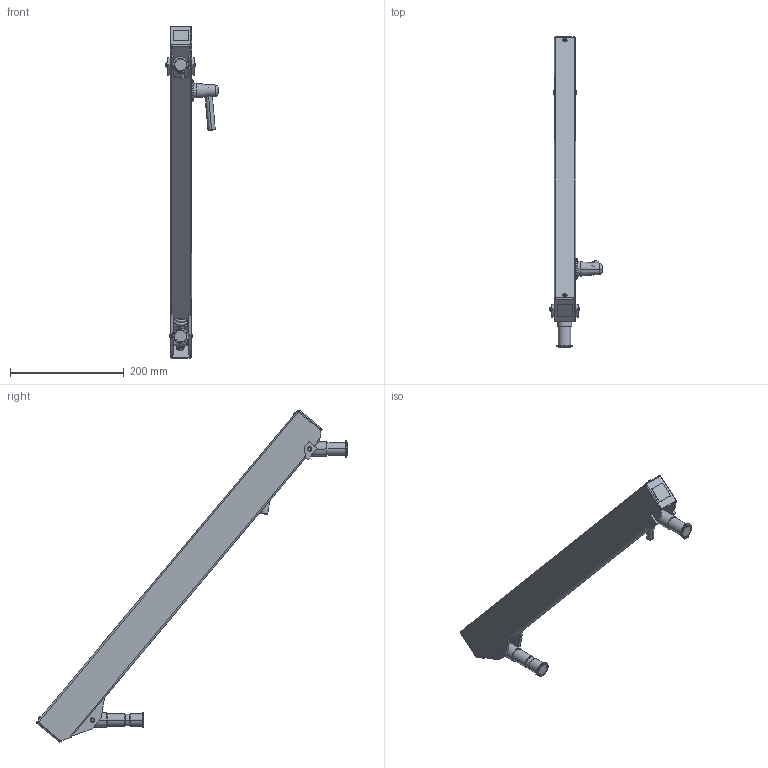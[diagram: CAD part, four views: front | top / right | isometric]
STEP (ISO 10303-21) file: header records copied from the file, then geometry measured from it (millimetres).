
FILE_DESCRIPTION (( 'STEP AP203' ), '1' );
FILE_NAME ('70-2435-00 REV AA, FLEX SECTION, 24in, 16-35 LB - DOWN.STEP', '2025-06-17T23:26:48', ( '' ), ( '' ), 'SwSTEP 2.0', 'SolidWorks 2025', '' );
FILE_SCHEMA (( 'CONFIG_CONTROL_DESIGN' ));
Length unit declared in the file: inch
Products named in the file (37): 71-2400-RX REV AA, HOUSING, 24in FLEX; 71-0972-99 REV 1, END CAP, FLEX; 70-2435-00 REV AA,  FLEX SECTION, 24in, 16-35 LB - DOWN; 005-084-00, BOLT, 1''4-20x2.75; 010-012-00, RETAINING RING, EXTERNAL, .875in SHAFT; 006-004-00_006-004-00; 11-0027-RX REV AA, PLASTIC DISC, BRAKE ASSEMBLY_MACHINE; 004-050-00, WASHER, FIBER, .032 THK, .265ID; 71-0070-RX REV AA, AXLE PIN, SHORT; 71-3032-RX REV AA, SPRING ROD, 24in FLEX; 71-0028-RX REV AA, TAB, MOUNT_MACHINE; 71-0059-RX REV AA, BUSHING, GUIDE, 24in DOUBLE SPRING; 004-144-00; 11-0601-99 REV AA, CONICAL KNOB, BRAKE ASSEMBLY; 016-070-00, BEARING, PLASTIC, .5ID x .625 OD x .75; 002-041-00_002-041-00; 011-033-00; 011-020-00 REV AA, PIN, KNURLED, 1.0LG x .25OD; 71-0031-RX REV AA, KNUCKLE, MOUNT_MACHINE; 71-0040-RX REV AA, BRAKE BLOCK, WIDE_MACHINE; 71-0060-00; 71-0058-RX REV AA, BAR, GUIDE, 24in DOUBLE SPRING; 11-0650-00 REV AA, BRAKE HANDLE ASSEMBLY; 71-2033-99 REV AA, BOLT, ADJUSTING, 12.120; 013-043-00, SPRING, GOLD, 1x8_ISO425203; 71-0030-RX REV AA, KNUCKLE, LOAD_MACHINE; 71-0038-RX REV AA, PIVOT, KNUCKLE, ELECTROLESS NICKEL; 007-036-00, SHSS, 1''4-28, .25L_007-036-00; 71-1051-RX REV AA, SPRING BLOCK; 71-0029-RX REV AA, TAB, LOAD; 71-0071-RX REV AA, AXLE PIN, LONG; 71-0037-RX REV AA, PIVOT, THREADED; 71-0057-WDX REV AA, GUIDE WELDMENT, 24in DOUBLE SPRING GUIDE; 006-059-00; 11-0602-RX REV AA, HANDLE, BRAKE ASSEMBLY; 010-011-00, RETAINING RING, EXT, .250 SHAFT_010-011-00; 71-2401-BLKX REV AA, FLEX HOUSING, 24in, BLACK
Assembly tree (61 placements, depth 3):
  70-2435-00 REV AA,  FLEX SECTION, 24in, 16-35 LB - DOWN
    71-0031-RX REV AA, KNUCKLE, MOUNT_MACHINE
    71-1051-RX REV AA, SPRING BLOCK
    71-3032-RX REV AA, SPRING ROD, 24in FLEX
    71-0030-RX REV AA, KNUCKLE, LOAD_MACHINE
    71-0038-RX REV AA, PIVOT, KNUCKLE, ELECTROLESS NICKEL
    71-0037-RX REV AA, PIVOT, THREADED
    71-0040-RX REV AA, BRAKE BLOCK, WIDE_MACHINE
    71-2033-99 REV AA, BOLT, ADJUSTING, 12.120
    71-2401-BLKX REV AA, FLEX HOUSING, 24in, BLACK
      71-2400-RX REV AA, HOUSING, 24in FLEX
      71-0029-RX REV AA, TAB, LOAD  x2
      71-0028-RX REV AA, TAB, MOUNT_MACHINE  x2
    71-0070-RX REV AA, AXLE PIN, SHORT
    71-0071-RX REV AA, AXLE PIN, LONG
    71-0972-99 REV 1, END CAP, FLEX  x2
    11-0027-RX REV AA, PLASTIC DISC, BRAKE ASSEMBLY_MACHINE
    71-0057-WDX REV AA, GUIDE WELDMENT, 24in DOUBLE SPRING GUIDE
      71-0058-RX REV AA, BAR, GUIDE, 24in DOUBLE SPRING
      71-0059-RX REV AA, BUSHING, GUIDE, 24in DOUBLE SPRING  x2
    71-0060-00  x2
    11-0650-00 REV AA, BRAKE HANDLE ASSEMBLY
      11-0601-99 REV AA, CONICAL KNOB, BRAKE ASSEMBLY
      11-0602-RX REV AA, HANDLE, BRAKE ASSEMBLY
      11-0027-RX REV AA, PLASTIC DISC, BRAKE ASSEMBLY_MACHINE
      005-084-00, BOLT, 1''4-20x2.75
    010-012-00, RETAINING RING, EXTERNAL, .875in SHAFT  x2
    013-043-00, SPRING, GOLD, 1x8_ISO425203  x2
    010-011-00, RETAINING RING, EXT, .250 SHAFT_010-011-00  x4
    007-036-00, SHSS, 1''4-28, .25L_007-036-00
    016-070-00, BEARING, PLASTIC, .5ID x .625 OD x .75  x2
    004-050-00, WASHER, FIBER, .032 THK, .265ID  x8
    011-033-00  x2
    011-020-00 REV AA, PIN, KNURLED, 1.0LG x .25OD  x2
    004-144-00  x3
    006-059-00
    006-004-00_006-004-00  x2
    002-041-00_002-041-00  x2
Bounding box: 91.63 x 545.81 x 583.12 mm (x, y, z)
Volume: 699249.7 mm3; surface area: 477558.6 mm2
Topology: 61 solids, 61 shells, 1189 faces, 2882 edges, 1814 vertices
Faces by surface type: cylinder 484, plane 404, cone 217, torus 45, bspline 33, sphere 6
Entity records: 65279 total; most frequent: CARTESIAN_POINT 41780, ORIENTED_EDGE 3952, DIRECTION 3929, EDGE_CURVE 1976, AXIS2_PLACEMENT_3D 1509, VERTEX_POINT 1242, LINE 911, VECTOR 911
